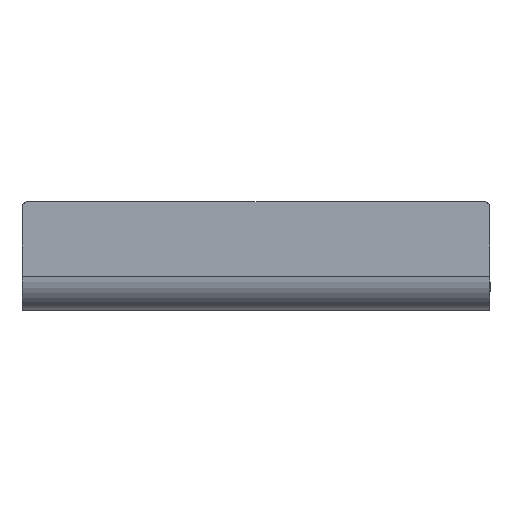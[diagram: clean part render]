
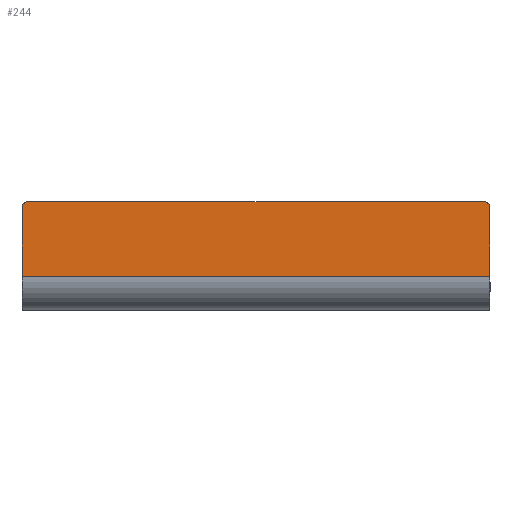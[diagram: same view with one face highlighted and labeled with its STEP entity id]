
A CAD part, front view. The second image highlights one B-rep face of the part: STEP entity #244.
In plain terms, the highlighted planar face has unit normal (0, -1, 0).
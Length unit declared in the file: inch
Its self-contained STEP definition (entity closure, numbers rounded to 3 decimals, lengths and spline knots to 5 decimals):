
#80 = DIRECTION ( 'NONE',  ( -1., 0., 0. ) ) ;
#81 = CARTESIAN_POINT ( 'NONE',  ( -1.25, -0.5, 0.448 ) ) ;
#122 = CARTESIAN_POINT ( 'NONE',  ( -1.22, -0.5, 0.478 ) ) ;
#136 = CARTESIAN_POINT ( 'NONE',  ( 0., -0.5, 0. ) ) ;
#159 = EDGE_CURVE ( 'NONE', #483, #1560, #621, .T. ) ;
#184 = EDGE_CURVE ( 'NONE', #1819, #1560, #978, .T. ) ;
#193 = VECTOR ( 'NONE', #80, 39.37008 ) ;
#213 = ORIENTED_EDGE ( 'NONE', *, *, #536, .T. ) ;
#244 = ADVANCED_FACE ( 'NONE', ( #1089 ), #704, .F. ) ;
#246 = EDGE_CURVE ( 'NONE', #1819, #1587, #1480, .T. ) ;
#249 = CARTESIAN_POINT ( 'NONE',  ( 1.22, -0.5, 0.478 ) ) ;
#300 = ORIENTED_EDGE ( 'NONE', *, *, #184, .F. ) ;
#394 = DIRECTION ( 'NONE',  ( 0., -1., 0. ) ) ;
#421 = DIRECTION ( 'NONE',  ( 0., 0., 1. ) ) ;
#431 = ORIENTED_EDGE ( 'NONE', *, *, #1578, .T. ) ;
#460 = EDGE_LOOP ( 'NONE', ( #1988, #213, #431, #2209, #1318, #300 ) ) ;
#483 = VERTEX_POINT ( 'NONE', #81 ) ;
#536 = EDGE_CURVE ( 'NONE', #1587, #1012, #1774, .T. ) ;
#621 = LINE ( 'NONE', #1546, #2009 ) ;
#704 = PLANE ( 'NONE',  #1216 ) ;
#821 = AXIS2_PLACEMENT_3D ( 'NONE', #1836, #394, #1844 ) ;
#883 = DIRECTION ( 'NONE',  ( 0., 1., 0. ) ) ;
#978 = LINE ( 'NONE', #1351, #2148 ) ;
#1004 = VECTOR ( 'NONE', #1583, 39.37008 ) ;
#1012 = VERTEX_POINT ( 'NONE', #249 ) ;
#1089 = FACE_OUTER_BOUND ( 'NONE', #460, .T. ) ;
#1134 = LINE ( 'NONE', #1328, #193 ) ;
#1216 = AXIS2_PLACEMENT_3D ( 'NONE', #136, #883, #2150 ) ;
#1230 = DIRECTION ( 'NONE',  ( -1., 0., 0. ) ) ;
#1318 = ORIENTED_EDGE ( 'NONE', *, *, #159, .T. ) ;
#1328 = CARTESIAN_POINT ( 'NONE',  ( -1.25, -0.5, 0.478 ) ) ;
#1351 = CARTESIAN_POINT ( 'NONE',  ( 0., -0.5, 0.08 ) ) ;
#1367 = DIRECTION ( 'NONE',  ( 0., 0., -1. ) ) ;
#1469 = EDGE_CURVE ( 'NONE', #1761, #483, #1768, .T. ) ;
#1480 = LINE ( 'NONE', #1958, #1004 ) ;
#1520 = CARTESIAN_POINT ( 'NONE',  ( 1.25, -0.5, 0.448 ) ) ;
#1546 = CARTESIAN_POINT ( 'NONE',  ( -1.25, -0.5, 0. ) ) ;
#1560 = VERTEX_POINT ( 'NONE', #1652 ) ;
#1578 = EDGE_CURVE ( 'NONE', #1012, #1761, #1134, .T. ) ;
#1583 = DIRECTION ( 'NONE',  ( 0., 0., 1. ) ) ;
#1587 = VERTEX_POINT ( 'NONE', #1520 ) ;
#1652 = CARTESIAN_POINT ( 'NONE',  ( -1.25, -0.5, 0.08 ) ) ;
#1761 = VERTEX_POINT ( 'NONE', #122 ) ;
#1768 = CIRCLE ( 'NONE', #821, 0.03 ) ;
#1774 = CIRCLE ( 'NONE', #2021, 0.03 ) ;
#1819 = VERTEX_POINT ( 'NONE', #1944 ) ;
#1836 = CARTESIAN_POINT ( 'NONE',  ( -1.22, -0.5, 0.448 ) ) ;
#1844 = DIRECTION ( 'NONE',  ( 0., 0., 1. ) ) ;
#1944 = CARTESIAN_POINT ( 'NONE',  ( 1.25, -0.5, 0.08 ) ) ;
#1958 = CARTESIAN_POINT ( 'NONE',  ( 1.25, -0.5, 0.478 ) ) ;
#1988 = ORIENTED_EDGE ( 'NONE', *, *, #246, .T. ) ;
#2009 = VECTOR ( 'NONE', #1367, 39.37008 ) ;
#2021 = AXIS2_PLACEMENT_3D ( 'NONE', #2245, #2260, #421 ) ;
#2148 = VECTOR ( 'NONE', #1230, 39.37008 ) ;
#2150 = DIRECTION ( 'NONE',  ( 0., 0., 1. ) ) ;
#2209 = ORIENTED_EDGE ( 'NONE', *, *, #1469, .T. ) ;
#2245 = CARTESIAN_POINT ( 'NONE',  ( 1.22, -0.5, 0.448 ) ) ;
#2260 = DIRECTION ( 'NONE',  ( 0., -1., 0. ) ) ;
